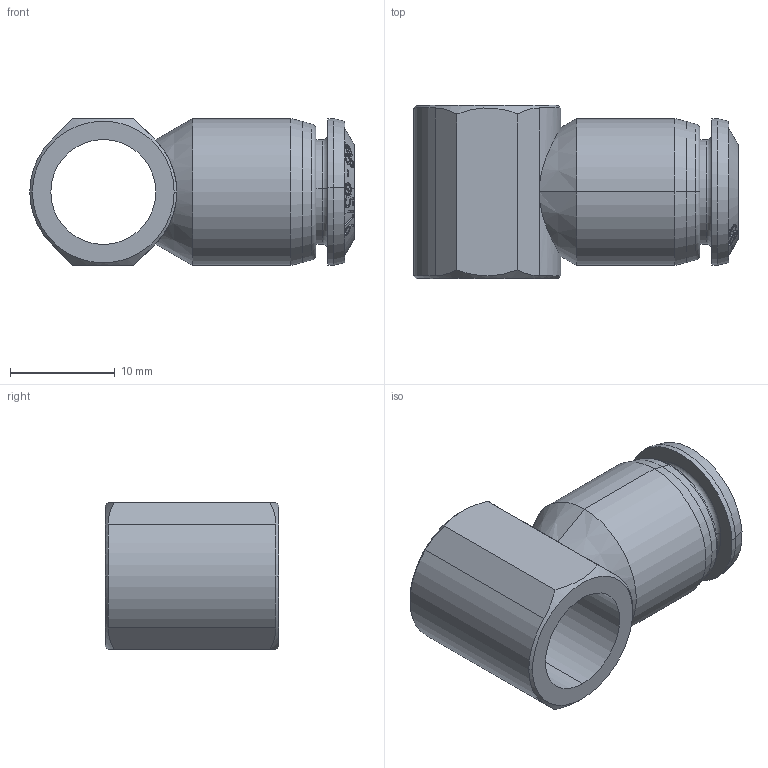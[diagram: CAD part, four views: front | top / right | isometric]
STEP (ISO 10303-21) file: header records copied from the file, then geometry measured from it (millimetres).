
FILE_DESCRIPTION (( 'STEP AP214' ), '1' );
FILE_NAME ('8550000013A.STEP', '2020-05-20T11:23:43', ( 'admin' ), ( '' ), 'SwSTEP 2.0', 'SolidWorks 2016', '' );
FILE_SCHEMA (( 'AUTOMOTIVE_DESIGN' ));
Length unit declared in the file: millimetre
Products named in the file (1): 8550000013A
Bounding box: 30.9 x 16.5 x 14 mm (x, y, z)
Volume: 2882.6 mm3; surface area: 2757.6 mm2
Topology: 1 solids, 1 shells, 160 faces, 413 edges, 270 vertices
Faces by surface type: bspline 97, cone 34, cylinder 13, plane 12, torus 4
Entity records: 12041 total; most frequent: CARTESIAN_POINT 8789, ORIENTED_EDGE 826, EDGE_CURVE 413, DIRECTION 367, VERTEX_POINT 270, B_SPLINE_CURVE_WITH_KNOTS 222, EDGE_LOOP 177, ADVANCED_FACE 160
